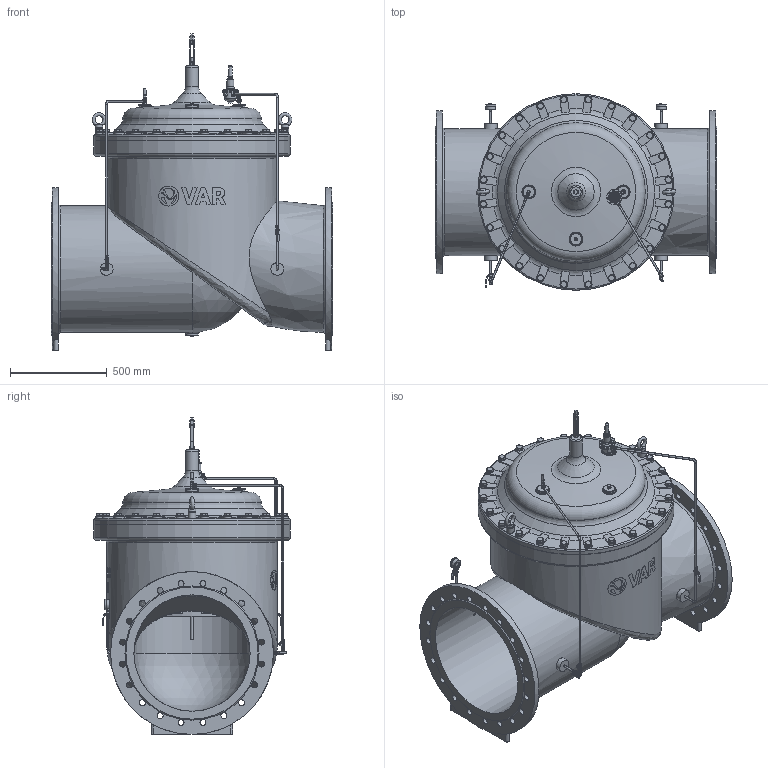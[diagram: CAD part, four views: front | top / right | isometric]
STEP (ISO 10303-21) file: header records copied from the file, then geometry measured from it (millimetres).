
FILE_DESCRIPTION(('STEP AP242'), '1');
FILE_NAME('PICO C200', '', ('UNSPECIFIED'), ('UNSPECIFIED'), 'C3D Converter', 'C3D Toolkit', '');
FILE_SCHEMA(('AP242_MANAGED_MODEL_BASED_3D_ENGINEERING_MIM_LF { 1 0 10303 442 1 1 4 }'));
Length unit declared in the file: millimetre
Products named in the file (26): М; ВР.752218.002
Assembly tree (93 placements, depth 3):
  (unnamed)
    (unnamed)
    (unnamed)
    (unnamed)
    (unnamed)
    (unnamed)
    (unnamed)
    (unnamed)
    М  x2
    (unnamed)
    (unnamed)  x4
    ВР.752218.002  x2
    (unnamed)  x6
    (unnamed)
    (unnamed)  x4
    (unnamed)
    (unnamed)
      (unnamed)
      (unnamed)
      (unnamed)  x8
      (unnamed)
    (unnamed)
    (unnamed)  x2
    (unnamed)  x2
    (unnamed)  x24
    (unnamed)  x24
Bounding box: 1450 x 1014 x 1635 mm (x, y, z)
Volume: 241256164 mm3; surface area: 17829469.2 mm2
Topology: 99 solids, 101 shells, 3535 faces, 8634 edges, 5574 vertices
Faces by surface type: plane 1945, cylinder 753, cone 468, extrusion 159, torus 111, bspline 88, sphere 11
Full cylindrical faces by diameter (mm): 0.518 x2, 1.2 x1, 2.5 x2, 3 x8, 4 x25, 4.2 x4, 4.5 x4, 5 x2, 6 x8, 7 x8, 8 x5, 8.7 x1, 9 x16, 9.3 x6, 9.5 x2, 10 x4, 10.2 x4, 10.8 x2, 11 x18, 11.16 x4, 11.179 x6, 11.22 x4, 11.4 x2, 11.577 x2, 12 x10, 12.5 x3, 12.573 x15, 13.157 x2, 13.8 x4, 14.4 x5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
Entity records: 125723 total; most frequent: CARTESIAN_POINT 72383, ORIENTED_EDGE 8406, DIRECTION 7718, EDGE_CURVE 4203, VERTEX_POINT 3046, AXIS2_PLACEMENT_3D 2890, EDGE_LOOP 2719, FACE_BOUND 2069
